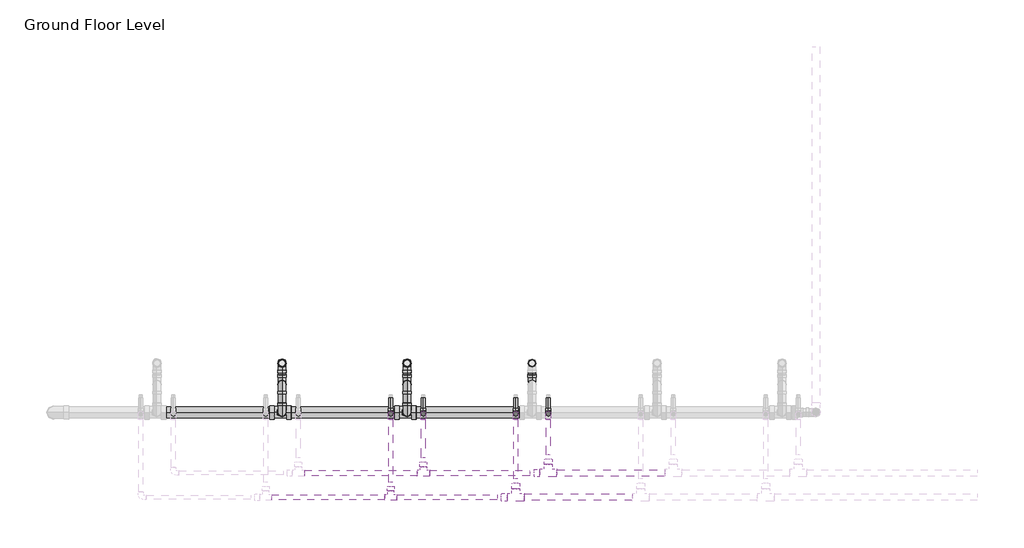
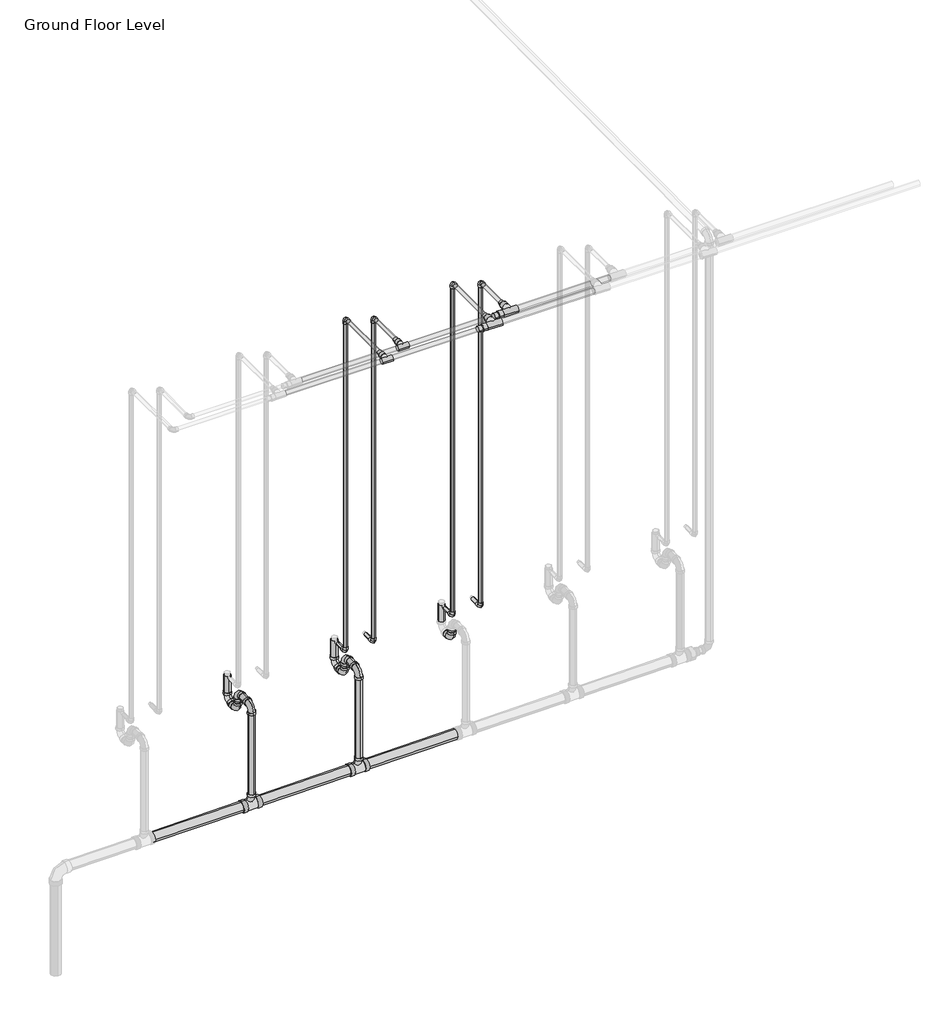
# One storey, part 40 of 74: 34 pipe segments, 29 pipe fittings.
"""IFC4 building model written with IfcOpenShell, lengths in millimetres."""

from ifc_helpers import new_model, si_unit, point, frame, frame_2d, origin, place, context, project, spatial, circle_curve, trimmed, segment, composite_curve, outline, extrude, transform, mapped, element, save
from components import m_bend_pvc_sch_40_dwv_standard_1e7bdcc1, m_bend_pvc_sch_40_dwv_standard_776e50c4, m_tee_reducing_sanitary_pvc_sch_40_dwv_standard_21d2848c, standard_b266ab3f, standard_72b35c3b, standard_08ff6011, standard_d0d0b892, standard_83629b21, standard_e954f56a

model = new_model("IFC4")

# Units and contexts
model_context = context("Model", 3, world=origin())
ifc_project = project(units=[si_unit("LENGTHUNIT", "METRE", prefix="MILLI")], contexts=[model_context])

# Site, building, storey
site = spatial("IfcSite", under=ifc_project)
building = spatial("IfcBuilding", under=site)
storey = spatial("IfcBuildingStorey", under=building, Name="Ground Floor Level", Elevation=900.0)

# Pipe fittings
placement = place(None, origin())
m_bend_pvc_sch_40_dwv_standard_shape = m_bend_pvc_sch_40_dwv_standard_1e7bdcc1(model_context)
element("IfcPipeFitting", 1, ObjectType="M_Bend - PVC - Sch 40 - DWV : Standard", at=placement, inside=storey, context=model_context, shape_type="MappedRepresentation", body=[
    mapped(m_bend_pvc_sch_40_dwv_standard_shape, transform((-19461.2502, 9458.7835646, 1360.0), x_axis=(0.0, 0.9999500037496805, 0.009999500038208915), y_axis=(0.0, -0.009999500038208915, 0.9999500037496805), z_axis=(1.0, 0.0, 0.0))),
])
element("IfcPipeFitting", 2, ObjectType="M_Bend - PVC - Sch 40 - DWV : Standard", at=placement, inside=storey, context=model_context, shape_type="MappedRepresentation", body=[
    mapped(m_bend_pvc_sch_40_dwv_standard_shape, transform((-20261.2502, 9458.7835646, 1360.0), x_axis=(0.0, 0.9999500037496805, 0.009999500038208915), y_axis=(0.0, -0.009999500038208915, 0.9999500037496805), z_axis=(1.0, 0.0, 0.0))),
])
element("IfcPipeFitting", 3, ObjectType="M_Bend - PVC - Sch 40 - DWV : Standard", at=placement, inside=storey, context=model_context, shape_type="MappedRepresentation", body=[
    mapped(m_bend_pvc_sch_40_dwv_standard_shape, transform((-19461.2502, 9143.7835646, 1498.2), x_axis=(0.0, -0.9999500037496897, -0.00999950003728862), y_axis=(0.0, 0.00999950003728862, -0.9999500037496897), z_axis=(1.0, 0.0, 0.0))),
])
element("IfcPipeFitting", 4, ObjectType="M_Bend - PVC - Sch 40 - DWV : Standard", at=placement, inside=storey, context=model_context, shape_type="MappedRepresentation", body=[
    mapped(m_bend_pvc_sch_40_dwv_standard_shape, transform((-20261.2502, 9143.7835646, 1498.2), x_axis=(0.0, -0.9999500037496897, -0.00999950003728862), y_axis=(0.0, 0.00999950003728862, -0.9999500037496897), z_axis=(1.0, 0.0, 0.0))),
])
m_bend_pvc_sch_40_dwv_standard_2_shape = m_bend_pvc_sch_40_dwv_standard_776e50c4(model_context)
element("IfcPipeFitting", 5, ObjectType="M_Bend - PVC - Sch 40 - DWV : Standard", at=placement, inside=storey, context=model_context, shape_type="MappedRepresentation", body=[
    mapped(m_bend_pvc_sch_40_dwv_standard_2_shape, transform((-18661.2502, 9323.7835646, 1358.65), x_axis=(0.0, -0.9999500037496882, -0.009999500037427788), y_axis=(0.0, -0.009999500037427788, 0.9999500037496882), z_axis=(-1.0, 0.0, 0.0))),
])
element("IfcPipeFitting", 6, ObjectType="M_Bend - PVC - Sch 40 - DWV : Standard", at=placement, inside=storey, context=model_context, shape_type="MappedRepresentation", body=[
    mapped(m_bend_pvc_sch_40_dwv_standard_2_shape, transform((-19461.2502, 9323.7835646, 1358.65), x_axis=(0.0, -0.9999500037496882, -0.009999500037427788), y_axis=(0.0, -0.009999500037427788, 0.9999500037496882), z_axis=(-1.0, 0.0, 0.0))),
])
element("IfcPipeFitting", 7, ObjectType="M_Bend - PVC - Sch 40 - DWV : Standard", at=placement, inside=storey, context=model_context, shape_type="MappedRepresentation", body=[
    mapped(m_bend_pvc_sch_40_dwv_standard_2_shape, transform((-19461.2502, 9323.7835646, 1500.0), x_axis=(0.0, 0.0, 1.0), y_axis=(0.0, -1.0, 0.0), z_axis=(1.0, 0.0, 0.0))),
])
element("IfcPipeFitting", 8, ObjectType="M_Bend - PVC - Sch 40 - DWV : Standard", at=placement, inside=storey, context=model_context, shape_type="MappedRepresentation", body=[
    mapped(m_bend_pvc_sch_40_dwv_standard_2_shape, transform((-20261.2502, 9323.7835646, 1358.65), x_axis=(0.0, -0.9999500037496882, -0.009999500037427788), y_axis=(0.0, -0.009999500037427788, 0.9999500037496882), z_axis=(-1.0, 0.0, 0.0))),
])
element("IfcPipeFitting", 9, ObjectType="M_Bend - PVC - Sch 40 - DWV : Standard", at=placement, inside=storey, context=model_context, shape_type="MappedRepresentation", body=[
    mapped(m_bend_pvc_sch_40_dwv_standard_2_shape, transform((-20261.2502, 9323.7835646, 1500.0), x_axis=(0.0, 0.0, 1.0), y_axis=(0.0, -1.0, 0.0), z_axis=(1.0, 0.0, 0.0))),
])
m_tee_reducing_sanitary_pvc_sch_40_dwv_standard_shape = m_tee_reducing_sanitary_pvc_sch_40_dwv_standard_21d2848c(model_context)
element("IfcPipeFitting", 10, ObjectType="M_Tee Reducing Sanitary - PVC - Sch 40 - DWV : Standard", at=placement, inside=storey, context=model_context, shape_type="MappedRepresentation", body=[
    mapped(m_tee_reducing_sanitary_pvc_sch_40_dwv_standard_shape, transform((-19461.2502, 9143.7835646, 735.2441999), x_axis=(0.9999500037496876, 0.0, 0.009999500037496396), y_axis=(0.009999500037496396, 0.0, -0.9999500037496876), z_axis=(0.0, 1.0, 0.0))),
])
element("IfcPipeFitting", 11, ObjectType="M_Tee Reducing Sanitary - PVC - Sch 40 - DWV : Standard", at=placement, inside=storey, context=model_context, shape_type="MappedRepresentation", body=[
    mapped(m_tee_reducing_sanitary_pvc_sch_40_dwv_standard_shape, transform((-20261.2502, 9143.7835646, 727.2441999), x_axis=(0.9999500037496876, 0.0, 0.009999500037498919), y_axis=(0.009999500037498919, 0.0, -0.9999500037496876), z_axis=(0.0, 1.0, 0.0))),
])
standard_shape = standard_b266ab3f(model_context)
element("IfcPipeFitting", 12, ObjectType="M_Elbow - CPVC - Sch 40 : Standard", at=placement, inside=storey, context=model_context, shape_type="MappedRepresentation", body=[
    mapped(standard_shape, transform((-19356.9352794, 9135.2153534, 4250.0), x_axis=(0.0, 0.0, 1.0), y_axis=(0.0, -1.0, 0.0), z_axis=(1.0, 0.0, 0.0))),
])
element("IfcPipeFitting", 13, ObjectType="M_Elbow - CPVC - Sch 40 : Standard", at=placement, inside=storey, context=model_context, shape_type="MappedRepresentation", body=[
    mapped(standard_shape, transform((-18556.7923674, 9135.2153534, 4250.0), x_axis=(0.0, 0.0, 1.0), y_axis=(0.0, -1.0, 0.0), z_axis=(1.0, 0.0, 0.0))),
])
element("IfcPipeFitting", 14, ObjectType="M_Elbow - CPVC - Sch 40 : Standard", at=placement, inside=storey, context=model_context, shape_type="MappedRepresentation", body=[
    mapped(standard_shape, transform((-19565.5651206, 9135.2153534, 1690.0), x_axis=(0.0, 0.0, -1.0), y_axis=(0.0, 1.0, 0.0), z_axis=(1.0, 0.0, 0.0))),
])
element("IfcPipeFitting", 15, ObjectType="M_Elbow - CPVC - Sch 40 : Standard", at=placement, inside=storey, context=model_context, shape_type="MappedRepresentation", body=[
    mapped(standard_shape, transform((-19356.9352794, 9135.2153534, 1690.0), x_axis=(0.0, 0.0, -1.0), y_axis=(0.0, 1.0, 0.0), z_axis=(1.0, 0.0, 0.0))),
])
element("IfcPipeFitting", 16, ObjectType="M_Elbow - CPVC - Sch 40 : Standard", at=placement, inside=storey, context=model_context, shape_type="MappedRepresentation", body=[
    mapped(standard_shape, transform((-18765.4222086, 9135.2153534, 1690.0), x_axis=(0.0, 0.0, -1.0), y_axis=(-0.0014291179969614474, 0.999998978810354, 0.0), z_axis=(0.999998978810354, 0.0014291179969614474, 0.0))),
])
element("IfcPipeFitting", 17, ObjectType="M_Elbow - CPVC - Sch 40 : Standard", at=placement, inside=storey, context=model_context, shape_type="MappedRepresentation", body=[
    mapped(standard_shape, transform((-18556.7923674, 9135.2153534, 1690.0), x_axis=(0.0, 0.0, -1.0), y_axis=(-0.0014291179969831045, 0.9999989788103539, 0.0), z_axis=(0.9999989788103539, 0.0014291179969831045, 0.0))),
])
element("IfcPipeFitting", 18, ObjectType="M_Elbow - CPVC - Sch 40 : Standard", at=placement, inside=storey, context=model_context, shape_type="MappedRepresentation", body=[
    mapped(standard_shape, transform((-18765.4222086, 9135.2153534, 4315.0), x_axis=(0.0, 0.0, 1.0), y_axis=(0.0, -1.0, 0.0), z_axis=(1.0, 0.0, 0.0))),
])
element("IfcPipeFitting", 19, ObjectType="M_Elbow - CPVC - Sch 40 : Standard", at=placement, inside=storey, context=model_context, shape_type="MappedRepresentation", body=[
    mapped(standard_shape, transform((-19565.5651206, 9135.2153534, 4315.0), x_axis=(0.0, 0.0, 1.0), y_axis=(0.0, -1.0, 0.0), z_axis=(1.0, 0.0, 0.0))),
])
standard_2_shape = standard_72b35c3b(model_context)
element("IfcPipeFitting", 20, ObjectType="M_Tee - CPVC - Sch 40 : Standard", at=placement, inside=storey, context=model_context, shape_type="MappedRepresentation", body=[
    mapped(standard_2_shape, transform((-19565.5651206, 8599.9071734, 4315.0), x_axis=(1.0, 0.0, 0.0), y_axis=(0.0, -1.0, 0.0), z_axis=(0.0, 0.0, -1.0))),
])
element("IfcPipeFitting", 21, ObjectType="M_Tee - CPVC - Sch 40 : Standard", at=placement, inside=storey, context=model_context, shape_type="MappedRepresentation", body=[
    mapped(standard_2_shape, transform((-19356.9352794, 8755.2153534, 4250.0), x_axis=(-1.0, 0.0, 0.0), y_axis=(0.0, -1.0, 0.0), z_axis=(0.0, 0.0, 1.0))),
])
standard_3_shape = standard_08ff6011(model_context)
element("IfcPipeFitting", 22, ObjectType="M_Tee - CPVC - Sch 40 : Standard", at=placement, inside=storey, context=model_context, shape_type="MappedRepresentation", body=[
    mapped(standard_3_shape, transform((-18765.4222086, 8599.9071734, 4315.0), x_axis=(1.0, 0.0, 0.0), y_axis=(0.0, -1.0, 0.0), z_axis=(0.0, 0.0, -1.0))),
])
element("IfcPipeFitting", 23, ObjectType="M_Tee - CPVC - Sch 40 : Standard", at=placement, inside=storey, context=model_context, shape_type="MappedRepresentation", body=[
    mapped(standard_3_shape, transform((-18556.7923674, 8755.2153534, 4250.0), x_axis=(-1.0, 0.0, 0.0), y_axis=(0.0, -1.0, 0.0), z_axis=(0.0, 0.0, 1.0))),
])
standard_4_shape = standard_d0d0b892(model_context)
element("IfcPipeFitting", 24, ObjectType="M_Coupling Reducing - CPVC - Sch 40 : Standard", at=placement, inside=storey, context=model_context, shape_type="MappedRepresentation", body=[
    mapped(standard_4_shape, transform((-18819.3972086, 8599.9071734, 4315.0), x_axis=(-1.0, 0.0, 0.0), y_axis=(0.0, -1.0, 0.0), z_axis=(0.0, 0.0, 1.0))),
])
element("IfcPipeFitting", 25, ObjectType="M_Coupling Reducing - CPVC - Sch 40 : Standard", at=placement, inside=storey, context=model_context, shape_type="MappedRepresentation", body=[
    mapped(standard_4_shape, transform((-18610.7673674, 8755.2153534, 4250.0), x_axis=(-1.0, 0.0, 0.0), y_axis=(0.0, -1.0, 0.0), z_axis=(0.0, 0.0, 1.0))),
])
standard_5_shape = standard_83629b21(model_context)
element("IfcPipeFitting", 26, ObjectType="M_Coupling Reducing - CPVC - Sch 40 : Standard", at=placement, inside=storey, context=model_context, shape_type="MappedRepresentation", body=[
    mapped(standard_5_shape, transform((-18765.4222086, 8653.8821734, 4315.0), x_axis=(0.0, 1.0, 0.0), y_axis=(-1.0, 0.0, 0.0), z_axis=(0.0, 0.0, 1.0))),
])
element("IfcPipeFitting", 27, ObjectType="M_Coupling Reducing - CPVC - Sch 40 : Standard", at=placement, inside=storey, context=model_context, shape_type="MappedRepresentation", body=[
    mapped(standard_5_shape, transform((-18556.7923674, 8809.1903534, 4250.0), x_axis=(0.0, 1.0, 0.0), y_axis=(-1.0, 0.0, 0.0), z_axis=(0.0, 0.0, 1.0))),
])
standard_6_shape = standard_e954f56a(model_context)
element("IfcPipeFitting", 28, ObjectType="M_Coupling Reducing - CPVC - Sch 40 : Standard", at=placement, inside=storey, context=model_context, shape_type="MappedRepresentation", body=[
    mapped(standard_6_shape, transform((-19565.5651206, 8639.6073734, 4315.0), x_axis=(0.0, 1.0, 0.0), y_axis=(-1.0, 0.0, 0.0), z_axis=(0.0, 0.0, 1.0))),
])
element("IfcPipeFitting", 29, ObjectType="M_Coupling Reducing - CPVC - Sch 40 : Standard", at=placement, inside=storey, context=model_context, shape_type="MappedRepresentation", body=[
    mapped(standard_6_shape, transform((-19356.9352794, 8794.9155534, 4250.0), x_axis=(0.0, 1.0, 0.0), y_axis=(-1.0, 0.0, 0.0), z_axis=(0.0, 0.0, 1.0))),
])

# Pipe segments
element("IfcPipeSegment", 30, ObjectType="CPVC", at=placement, inside=storey, context=model_context, shape_type="SweptSolid", body=[
    extrude(outline(composite_curve([segment(trimmed(circle_curve(frame_2d((0.0, 13.335)), 13.335), [point((0.0, 26.67))], [point((13.335, 13.335))], False, "CARTESIAN"), True, "CONTINUOUS"), segment(trimmed(circle_curve(frame_2d((0.0, 13.335)), 13.335), [point((13.335, 13.335))], [point((0.0, 0.0))], False, "CARTESIAN"), True, "CONTINUOUS"), segment(trimmed(circle_curve(frame_2d((0.0, 13.335)), 13.335), [point((0.0, 0.0))], [point((-13.335, 13.335))], False, "CARTESIAN"), True, "CONTINUOUS"), segment(trimmed(circle_curve(frame_2d((0.0, 13.335)), 13.335), [point((-13.335, 13.335))], [point((0.0, 26.67))], False, "CARTESIAN"), True, "CONTINUOUS")], self_intersect=False)), frame((-19578.9001206, 9170.5404034, 1690.0), z_axis=(-1.3601818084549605e-11, 1.0, 0.0), x_axis=(0.0, 0.0, 1.0)), (0.0, 0.0, 1.0), 64.67495),
])
element("IfcPipeSegment", 31, ObjectType="CPVC", at=placement, inside=storey, context=model_context, shape_type="SweptSolid", body=[
    extrude(outline(composite_curve([segment(trimmed(circle_curve(frame_2d((4315.0, -19565.5651206)), 13.335), [point((4315.0, -19578.9001206))], [point((4301.665, -19565.5651206))], False, "CARTESIAN"), True, "CONTINUOUS"), segment(trimmed(circle_curve(frame_2d((4315.0, -19565.5651206)), 13.335), [point((4301.665, -19565.5651206))], [point((4315.0, -19552.2301206))], False, "CARTESIAN"), True, "CONTINUOUS"), segment(trimmed(circle_curve(frame_2d((4315.0, -19565.5651206)), 13.335), [point((4315.0, -19552.2301206))], [point((4328.335, -19565.5651206))], False, "CARTESIAN"), True, "CONTINUOUS"), segment(trimmed(circle_curve(frame_2d((4315.0, -19565.5651206)), 13.335), [point((4328.335, -19565.5651206))], [point((4315.0, -19578.9001206))], False, "CARTESIAN"), True, "CONTINUOUS")], self_intersect=False)), frame((0.0, 8696.7573734, 0.0), z_axis=(0.0, 1.0, 0.0), x_axis=(0.0, 0.0, 1.0)), (0.0, 0.0, 1.0), 403.13293),
])
element("IfcPipeSegment", 32, ObjectType="CPVC", at=placement, inside=storey, context=model_context, shape_type="SweptSolid", body=[
    extrude(outline(composite_curve([segment(trimmed(circle_curve(frame_2d((-19565.5651206, 9135.2153534)), 13.335), [point((-19578.9001206, 9135.2153534))], [point((-19565.5651206, 9148.5503534))], False, "CARTESIAN"), True, "CONTINUOUS"), segment(trimmed(circle_curve(frame_2d((-19565.5651206, 9135.2153534)), 13.335), [point((-19565.5651206, 9148.5503534))], [point((-19552.2301206, 9135.2153534))], False, "CARTESIAN"), True, "CONTINUOUS"), segment(trimmed(circle_curve(frame_2d((-19565.5651206, 9135.2153534)), 13.335), [point((-19552.2301206, 9135.2153534))], [point((-19565.5651206, 9121.8803534))], False, "CARTESIAN"), True, "CONTINUOUS"), segment(trimmed(circle_curve(frame_2d((-19565.5651206, 9135.2153534)), 13.335), [point((-19565.5651206, 9121.8803534))], [point((-19578.9001206, 9135.2153534))], False, "CARTESIAN"), True, "CONTINUOUS")], self_intersect=False)), frame((0.0, 0.0, 1725.32505), z_axis=(0.0, 0.0, 1.0), x_axis=(1.0, 0.0, 0.0)), (0.0, 0.0, 1.0), 2554.3499),
])
element("IfcPipeSegment", 33, ObjectType="CPVC", at=placement, inside=storey, context=model_context, shape_type="SweptSolid", body=[
    extrude(outline(composite_curve([segment(trimmed(circle_curve(frame_2d((0.0, 13.335)), 13.335), [point((0.0, 26.67))], [point((13.335, 13.335))], False, "CARTESIAN"), True, "CONTINUOUS"), segment(trimmed(circle_curve(frame_2d((0.0, 13.335)), 13.335), [point((13.335, 13.335))], [point((0.0, 0.0))], False, "CARTESIAN"), True, "CONTINUOUS"), segment(trimmed(circle_curve(frame_2d((0.0, 13.335)), 13.335), [point((0.0, 0.0))], [point((-13.335, 13.335))], False, "CARTESIAN"), True, "CONTINUOUS"), segment(trimmed(circle_curve(frame_2d((0.0, 13.335)), 13.335), [point((-13.335, 13.335))], [point((0.0, 26.67))], False, "CARTESIAN"), True, "CONTINUOUS")], self_intersect=False)), frame((-19370.2702794, 9170.5404034, 1690.0), z_axis=(-1.3642420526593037e-11, 1.0, 0.0), x_axis=(0.0, 0.0, 1.0)), (0.0, 0.0, 1.0), 64.67495),
])
element("IfcPipeSegment", 34, ObjectType="CPVC", at=placement, inside=storey, context=model_context, shape_type="SweptSolid", body=[
    extrude(outline(composite_curve([segment(trimmed(circle_curve(frame_2d((4250.0, -19356.9352794)), 13.335), [point((4250.0, -19370.2702794))], [point((4236.665, -19356.9352794))], False, "CARTESIAN"), True, "CONTINUOUS"), segment(trimmed(circle_curve(frame_2d((4250.0, -19356.9352794)), 13.335), [point((4236.665, -19356.9352794))], [point((4250.0, -19343.6002794))], False, "CARTESIAN"), True, "CONTINUOUS"), segment(trimmed(circle_curve(frame_2d((4250.0, -19356.9352794)), 13.335), [point((4250.0, -19343.6002794))], [point((4263.335, -19356.9352794))], False, "CARTESIAN"), True, "CONTINUOUS"), segment(trimmed(circle_curve(frame_2d((4250.0, -19356.9352794)), 13.335), [point((4263.335, -19356.9352794))], [point((4250.0, -19370.2702794))], False, "CARTESIAN"), True, "CONTINUOUS")], self_intersect=False)), frame((0.0, 8852.0655534, 0.0), z_axis=(0.0, 1.0, 0.0), x_axis=(0.0, 0.0, 1.0)), (0.0, 0.0, 1.0), 247.82475),
])
element("IfcPipeSegment", 35, ObjectType="CPVC", at=placement, inside=storey, context=model_context, shape_type="SweptSolid", body=[
    extrude(outline(composite_curve([segment(trimmed(circle_curve(frame_2d((-19356.9352794, 9135.2153534)), 13.335), [point((-19370.2702794, 9135.2153534))], [point((-19356.9352794, 9148.5503534))], False, "CARTESIAN"), True, "CONTINUOUS"), segment(trimmed(circle_curve(frame_2d((-19356.9352794, 9135.2153534)), 13.335), [point((-19356.9352794, 9148.5503534))], [point((-19343.6002794, 9135.2153534))], False, "CARTESIAN"), True, "CONTINUOUS"), segment(trimmed(circle_curve(frame_2d((-19356.9352794, 9135.2153534)), 13.335), [point((-19343.6002794, 9135.2153534))], [point((-19356.9352794, 9121.8803534))], False, "CARTESIAN"), True, "CONTINUOUS"), segment(trimmed(circle_curve(frame_2d((-19356.9352794, 9135.2153534)), 13.335), [point((-19356.9352794, 9121.8803534))], [point((-19370.2702794, 9135.2153534))], False, "CARTESIAN"), True, "CONTINUOUS")], self_intersect=False)), frame((0.0, 0.0, 1725.32505), z_axis=(0.0, 0.0, 1.0), x_axis=(1.0, 0.0, 0.0)), (0.0, 0.0, 1.0), 2489.3499),
])
element("IfcPipeSegment", 36, ObjectType="CPVC", at=placement, inside=storey, context=model_context, shape_type="SweptSolid", body=[
    extrude(outline(composite_curve([segment(trimmed(circle_curve(frame_2d((0.0, 13.335)), 13.335), [point((0.0, 26.67))], [point((13.335, 13.335))], False, "CARTESIAN"), True, "CONTINUOUS"), segment(trimmed(circle_curve(frame_2d((0.0, 13.335)), 13.335), [point((13.335, 13.335))], [point((0.0, 0.0))], False, "CARTESIAN"), True, "CONTINUOUS"), segment(trimmed(circle_curve(frame_2d((0.0, 13.335)), 13.335), [point((0.0, 0.0))], [point((-13.335, 13.335))], False, "CARTESIAN"), True, "CONTINUOUS"), segment(trimmed(circle_curve(frame_2d((0.0, 13.335)), 13.335), [point((-13.335, 13.335))], [point((0.0, 26.67))], False, "CARTESIAN"), True, "CONTINUOUS")], self_intersect=False)), frame((-18778.8076787, 9170.52131, 1690.0), z_axis=(-0.0014291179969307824, 0.999998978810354, 0.0), x_axis=(0.0, 0.0, 1.0)), (0.0, 0.0, 1.0), 64.6750521),
])
element("IfcPipeSegment", 37, ObjectType="CPVC", at=placement, inside=storey, context=model_context, shape_type="SweptSolid", body=[
    extrude(outline(composite_curve([segment(trimmed(circle_curve(frame_2d((4315.0, -18765.4222086)), 13.335), [point((4315.0, -18778.7572086))], [point((4301.665, -18765.4222086))], False, "CARTESIAN"), True, "CONTINUOUS"), segment(trimmed(circle_curve(frame_2d((4315.0, -18765.4222086)), 13.335), [point((4301.665, -18765.4222086))], [point((4315.0, -18752.0872086))], False, "CARTESIAN"), True, "CONTINUOUS"), segment(trimmed(circle_curve(frame_2d((4315.0, -18765.4222086)), 13.335), [point((4315.0, -18752.0872086))], [point((4328.335, -18765.4222086))], False, "CARTESIAN"), True, "CONTINUOUS"), segment(trimmed(circle_curve(frame_2d((4315.0, -18765.4222086)), 13.335), [point((4328.335, -18765.4222086))], [point((4315.0, -18778.7572086))], False, "CARTESIAN"), True, "CONTINUOUS")], self_intersect=False)), frame((0.0, 8716.6990484, 0.0), z_axis=(0.0, 1.0, 0.0), x_axis=(0.0, 0.0, 1.0)), (0.0, 0.0, 1.0), 383.191255),
])
element("IfcPipeSegment", 38, ObjectType="CPVC", at=placement, inside=storey, context=model_context, shape_type="SweptSolid", body=[
    extrude(outline(composite_curve([segment(trimmed(circle_curve(frame_2d((-18765.4222086, 9135.2153534)), 13.335), [point((-18778.7572086, 9135.2153534))], [point((-18765.4222086, 9148.5503534))], False, "CARTESIAN"), True, "CONTINUOUS"), segment(trimmed(circle_curve(frame_2d((-18765.4222086, 9135.2153534)), 13.335), [point((-18765.4222086, 9148.5503534))], [point((-18752.0872086, 9135.2153534))], False, "CARTESIAN"), True, "CONTINUOUS"), segment(trimmed(circle_curve(frame_2d((-18765.4222086, 9135.2153534)), 13.335), [point((-18752.0872086, 9135.2153534))], [point((-18765.4222086, 9121.8803534))], False, "CARTESIAN"), True, "CONTINUOUS"), segment(trimmed(circle_curve(frame_2d((-18765.4222086, 9135.2153534)), 13.335), [point((-18765.4222086, 9121.8803534))], [point((-18778.7572086, 9135.2153534))], False, "CARTESIAN"), True, "CONTINUOUS")], self_intersect=False)), frame((0.0, 0.0, 1725.32505), z_axis=(0.0, 0.0, 1.0), x_axis=(1.0, 0.0, 0.0)), (0.0, 0.0, 1.0), 2554.3499),
])
element("IfcPipeSegment", 39, ObjectType="CPVC", at=placement, inside=storey, context=model_context, shape_type="SweptSolid", body=[
    extrude(outline(composite_curve([segment(trimmed(circle_curve(frame_2d((0.0, 13.335)), 13.335), [point((0.0, 26.67))], [point((13.335, 13.335))], False, "CARTESIAN"), True, "CONTINUOUS"), segment(trimmed(circle_curve(frame_2d((0.0, 13.335)), 13.335), [point((13.335, 13.335))], [point((0.0, 0.0))], False, "CARTESIAN"), True, "CONTINUOUS"), segment(trimmed(circle_curve(frame_2d((0.0, 13.335)), 13.335), [point((0.0, 0.0))], [point((-13.335, 13.335))], False, "CARTESIAN"), True, "CONTINUOUS"), segment(trimmed(circle_curve(frame_2d((0.0, 13.335)), 13.335), [point((-13.335, 13.335))], [point((0.0, 26.67))], False, "CARTESIAN"), True, "CONTINUOUS")], self_intersect=False)), frame((-18570.1778375, 9170.52131, 1690.0), z_axis=(-0.0014291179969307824, 0.999998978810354, 0.0), x_axis=(0.0, 0.0, 1.0)), (0.0, 0.0, 1.0), 64.6750521),
])
element("IfcPipeSegment", 40, ObjectType="CPVC", at=placement, inside=storey, context=model_context, shape_type="SweptSolid", body=[
    extrude(outline(composite_curve([segment(trimmed(circle_curve(frame_2d((4250.0, -18556.7923674)), 13.335), [point((4250.0, -18570.1273674))], [point((4236.665, -18556.7923674))], False, "CARTESIAN"), True, "CONTINUOUS"), segment(trimmed(circle_curve(frame_2d((4250.0, -18556.7923674)), 13.335), [point((4236.665, -18556.7923674))], [point((4250.0, -18543.4573674))], False, "CARTESIAN"), True, "CONTINUOUS"), segment(trimmed(circle_curve(frame_2d((4250.0, -18556.7923674)), 13.335), [point((4250.0, -18543.4573674))], [point((4263.335, -18556.7923674))], False, "CARTESIAN"), True, "CONTINUOUS"), segment(trimmed(circle_curve(frame_2d((4250.0, -18556.7923674)), 13.335), [point((4263.335, -18556.7923674))], [point((4250.0, -18570.1273674))], False, "CARTESIAN"), True, "CONTINUOUS")], self_intersect=False)), frame((0.0, 8872.0072284, 0.0), z_axis=(0.0, 1.0, 0.0), x_axis=(0.0, 0.0, 1.0)), (0.0, 0.0, 1.0), 227.883075),
])
element("IfcPipeSegment", 41, ObjectType="CPVC", at=placement, inside=storey, context=model_context, shape_type="SweptSolid", body=[
    extrude(outline(composite_curve([segment(trimmed(circle_curve(frame_2d((-18556.7923674, 9135.2153534)), 13.335), [point((-18570.1273674, 9135.2153534))], [point((-18556.7923674, 9148.5503534))], False, "CARTESIAN"), True, "CONTINUOUS"), segment(trimmed(circle_curve(frame_2d((-18556.7923674, 9135.2153534)), 13.335), [point((-18556.7923674, 9148.5503534))], [point((-18543.4573674, 9135.2153534))], False, "CARTESIAN"), True, "CONTINUOUS"), segment(trimmed(circle_curve(frame_2d((-18556.7923674, 9135.2153534)), 13.335), [point((-18543.4573674, 9135.2153534))], [point((-18556.7923674, 9121.8803534))], False, "CARTESIAN"), True, "CONTINUOUS"), segment(trimmed(circle_curve(frame_2d((-18556.7923674, 9135.2153534)), 13.335), [point((-18556.7923674, 9121.8803534))], [point((-18570.1273674, 9135.2153534))], False, "CARTESIAN"), True, "CONTINUOUS")], self_intersect=False)), frame((0.0, 0.0, 1725.32505), z_axis=(0.0, 0.0, 1.0), x_axis=(1.0, 0.0, 0.0)), (0.0, 0.0, 1.0), 2489.3499),
])
element("IfcPipeSegment", 42, ObjectType="CPVC", at=placement, inside=storey, context=model_context, shape_type="SweptSolid", body=[
    extrude(outline(composite_curve([segment(trimmed(circle_curve(frame_2d((8599.9071734, 4315.0)), 21.082), [point((8620.9891734, 4315.0))], [point((8599.9071734, 4293.918))], False, "CARTESIAN"), True, "CONTINUOUS"), segment(trimmed(circle_curve(frame_2d((8599.9071734, 4315.0)), 21.082), [point((8599.9071734, 4293.918))], [point((8578.8251734, 4315.0))], False, "CARTESIAN"), True, "CONTINUOUS"), segment(trimmed(circle_curve(frame_2d((8599.9071734, 4315.0)), 21.082), [point((8578.8251734, 4315.0))], [point((8599.9071734, 4336.082))], False, "CARTESIAN"), True, "CONTINUOUS"), segment(trimmed(circle_curve(frame_2d((8599.9071734, 4315.0)), 21.082), [point((8599.9071734, 4336.082))], [point((8620.9891734, 4315.0))], False, "CARTESIAN"), True, "CONTINUOUS")], self_intersect=False)), frame((-18711.4472086, 0.0, 0.0), z_axis=(1.0, 0.0, 0.0), x_axis=(0.0, 1.0, 0.0)), (0.0, 0.0, 1.0), 692.05),
])
element("IfcPipeSegment", 43, ObjectType="CPVC", at=placement, inside=storey, context=model_context, shape_type="SweptSolid", body=[
    extrude(outline(composite_curve([segment(trimmed(circle_curve(frame_2d((8599.9071734, 4315.0)), 16.7005), [point((8616.6076734, 4315.0))], [point((8599.9071734, 4298.2995))], False, "CARTESIAN"), True, "CONTINUOUS"), segment(trimmed(circle_curve(frame_2d((8599.9071734, 4315.0)), 16.7005), [point((8599.9071734, 4298.2995))], [point((8583.2066734, 4315.0))], False, "CARTESIAN"), True, "CONTINUOUS"), segment(trimmed(circle_curve(frame_2d((8599.9071734, 4315.0)), 16.7005), [point((8583.2066734, 4315.0))], [point((8599.9071734, 4331.7005))], False, "CARTESIAN"), True, "CONTINUOUS"), segment(trimmed(circle_curve(frame_2d((8599.9071734, 4315.0)), 16.7005), [point((8599.9071734, 4331.7005))], [point((8616.6076734, 4315.0))], False, "CARTESIAN"), True, "CONTINUOUS")], self_intersect=False)), frame((-19525.8649206, 0.0, 0.0), z_axis=(1.0, 0.0, 0.0), x_axis=(0.0, 1.0, 0.0)), (0.0, 0.0, 1.0), 640.3488369),
])
element("IfcPipeSegment", 44, ObjectType="CPVC", at=placement, inside=storey, context=model_context, shape_type="SweptSolid", body=[
    extrude(outline(composite_curve([segment(trimmed(circle_curve(frame_2d((8599.9071734, 4315.0)), 16.7005), [point((8616.6076734, 4315.0))], [point((8599.9071734, 4298.2995))], False, "CARTESIAN"), True, "CONTINUOUS"), segment(trimmed(circle_curve(frame_2d((8599.9071734, 4315.0)), 16.7005), [point((8599.9071734, 4298.2995))], [point((8583.2066734, 4315.0))], False, "CARTESIAN"), True, "CONTINUOUS"), segment(trimmed(circle_curve(frame_2d((8599.9071734, 4315.0)), 16.7005), [point((8583.2066734, 4315.0))], [point((8599.9071734, 4331.7005))], False, "CARTESIAN"), True, "CONTINUOUS"), segment(trimmed(circle_curve(frame_2d((8599.9071734, 4315.0)), 16.7005), [point((8599.9071734, 4331.7005))], [point((8616.6076734, 4315.0))], False, "CARTESIAN"), True, "CONTINUOUS")], self_intersect=False)), frame((-20325.8649206, 0.0, 0.0), z_axis=(1.0, 0.0, 0.0), x_axis=(0.0, 1.0, 0.0)), (0.0, 0.0, 1.0), 720.5996),
])
element("IfcPipeSegment", 45, ObjectType="CPVC", at=placement, inside=storey, context=model_context, shape_type="SweptSolid", body=[
    extrude(outline(composite_curve([segment(trimmed(circle_curve(frame_2d((8755.2153534, 4250.0)), 16.7005), [point((8738.5148534, 4250.0))], [point((8755.2153534, 4266.7005))], False, "CARTESIAN"), True, "CONTINUOUS"), segment(trimmed(circle_curve(frame_2d((8755.2153534, 4250.0)), 16.7005), [point((8755.2153534, 4266.7005))], [point((8771.9158534, 4250.0))], False, "CARTESIAN"), True, "CONTINUOUS"), segment(trimmed(circle_curve(frame_2d((8755.2153534, 4250.0)), 16.7005), [point((8771.9158534, 4250.0))], [point((8755.2153534, 4233.2995))], False, "CARTESIAN"), True, "CONTINUOUS"), segment(trimmed(circle_curve(frame_2d((8755.2153534, 4250.0)), 16.7005), [point((8755.2153534, 4233.2995))], [point((8738.5148534, 4250.0))], False, "CARTESIAN"), True, "CONTINUOUS")], self_intersect=False)), frame((-20117.2350794, 0.0, 0.0), z_axis=(1.0, 0.0, 0.0), x_axis=(0.0, 1.0, 0.0)), (0.0, 0.0, 1.0), 720.5996),
])
element("IfcPipeSegment", 46, ObjectType="CPVC", at=placement, inside=storey, context=model_context, shape_type="SweptSolid", body=[
    extrude(outline(composite_curve([segment(trimmed(circle_curve(frame_2d((8755.2153534, 4250.0)), 16.7005), [point((8738.5148534, 4250.0))], [point((8755.2153534, 4266.7005))], False, "CARTESIAN"), True, "CONTINUOUS"), segment(trimmed(circle_curve(frame_2d((8755.2153534, 4250.0)), 16.7005), [point((8755.2153534, 4266.7005))], [point((8771.9158534, 4250.0))], False, "CARTESIAN"), True, "CONTINUOUS"), segment(trimmed(circle_curve(frame_2d((8755.2153534, 4250.0)), 16.7005), [point((8771.9158534, 4250.0))], [point((8755.2153534, 4233.2995))], False, "CARTESIAN"), True, "CONTINUOUS"), segment(trimmed(circle_curve(frame_2d((8755.2153534, 4250.0)), 16.7005), [point((8755.2153534, 4233.2995))], [point((8738.5148534, 4250.0))], False, "CARTESIAN"), True, "CONTINUOUS")], self_intersect=False)), frame((-19317.2350794, 0.0, 0.0), z_axis=(1.0, 0.0, 0.0), x_axis=(0.0, 1.0, 0.0)), (0.0, 0.0, 1.0), 640.3488369),
])
element("IfcPipeSegment", 47, ObjectType="CPVC", at=placement, inside=storey, context=model_context, shape_type="SweptSolid", body=[
    extrude(outline(composite_curve([segment(trimmed(circle_curve(frame_2d((8755.2153534, 4250.0)), 21.082), [point((8734.1333534, 4250.0))], [point((8755.2153534, 4271.082))], False, "CARTESIAN"), True, "CONTINUOUS"), segment(trimmed(circle_curve(frame_2d((8755.2153534, 4250.0)), 21.082), [point((8755.2153534, 4271.082))], [point((8776.2973534, 4250.0))], False, "CARTESIAN"), True, "CONTINUOUS"), segment(trimmed(circle_curve(frame_2d((8755.2153534, 4250.0)), 21.082), [point((8776.2973534, 4250.0))], [point((8755.2153534, 4228.918))], False, "CARTESIAN"), True, "CONTINUOUS"), segment(trimmed(circle_curve(frame_2d((8755.2153534, 4250.0)), 21.082), [point((8755.2153534, 4228.918))], [point((8734.1333534, 4250.0))], False, "CARTESIAN"), True, "CONTINUOUS")], self_intersect=False)), frame((-18502.8173674, 0.0, 0.0), z_axis=(1.0, 0.0, 0.0), x_axis=(0.0, 1.0, 0.0)), (0.0, 0.0, 1.0), 692.05),
])
element("IfcPipeSegment", 48, ObjectType="PVC - DWV", at=placement, inside=storey, context=model_context, shape_type="SweptSolid", body=[
    extrude(outline(composite_curve([segment(trimmed(circle_curve(frame_2d((-18661.2502, 9458.7835646)), 24.13), [point((-18685.3802, 9458.7835646))], [point((-18661.2502, 9482.9135646))], False, "CARTESIAN"), True, "CONTINUOUS"), segment(trimmed(circle_curve(frame_2d((-18661.2502, 9458.7835646)), 24.13), [point((-18661.2502, 9482.9135646))], [point((-18637.1202, 9458.7835646))], False, "CARTESIAN"), True, "CONTINUOUS"), segment(trimmed(circle_curve(frame_2d((-18661.2502, 9458.7835646)), 24.13), [point((-18637.1202, 9458.7835646))], [point((-18661.2502, 9434.6535646))], False, "CARTESIAN"), True, "CONTINUOUS"), segment(trimmed(circle_curve(frame_2d((-18661.2502, 9458.7835646)), 24.13), [point((-18661.2502, 9434.6535646))], [point((-18685.3802, 9458.7835646))], False, "CARTESIAN"), True, "CONTINUOUS")], self_intersect=False)), frame((0.0, 0.0, 1421.8998), z_axis=(0.0, 0.0, 1.0), x_axis=(1.0, 0.0, 0.0)), (0.0, 0.0, 1.0), 128.1002),
])
element("IfcPipeSegment", 49, ObjectType="PVC - DWV", at=placement, inside=storey, context=model_context, shape_type="SweptSolid", body=[
    extrude(outline(composite_curve([segment(trimmed(circle_curve(frame_2d((0.0, -24.13)), 24.13), [point((-24.13, -24.13))], [point((0.0, 0.0))], False, "CARTESIAN"), True, "CONTINUOUS"), segment(trimmed(circle_curve(frame_2d((0.0, -24.13)), 24.13), [point((0.0, 0.0))], [point((24.13, -24.13))], False, "CARTESIAN"), True, "CONTINUOUS"), segment(trimmed(circle_curve(frame_2d((0.0, -24.13)), 24.13), [point((24.13, -24.13))], [point((0.0, -48.2599999))], False, "CARTESIAN"), True, "CONTINUOUS"), segment(trimmed(circle_curve(frame_2d((0.0, -24.13)), 24.13), [point((0.0, -48.2599999))], [point((-24.13, -24.13))], False, "CARTESIAN"), True, "CONTINUOUS")], self_intersect=False)), frame((-18661.2502, 9385.9215577, 1335.1401735), z_axis=(0.0, 0.9999500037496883, 0.009999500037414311), x_axis=(1.0, 0.0, 0.0)), (0.0, 0.0, 1.0), 11.2071498),
])
element("IfcPipeSegment", 50, ObjectType="PVC - DWV", at=placement, inside=storey, context=model_context, shape_type="SweptSolid", body=[
    extrude(outline(composite_curve([segment(trimmed(circle_curve(frame_2d((-18661.2502, 9323.7835646)), 24.13), [point((-18685.3802, 9323.7835646))], [point((-18661.2502, 9347.9135646))], False, "CARTESIAN"), True, "CONTINUOUS"), segment(trimmed(circle_curve(frame_2d((-18661.2502, 9323.7835646)), 24.13), [point((-18661.2502, 9347.9135646))], [point((-18637.1202, 9323.7835646))], False, "CARTESIAN"), True, "CONTINUOUS"), segment(trimmed(circle_curve(frame_2d((-18661.2502, 9323.7835646)), 24.13), [point((-18637.1202, 9323.7835646))], [point((-18661.2502, 9299.6535646))], False, "CARTESIAN"), True, "CONTINUOUS"), segment(trimmed(circle_curve(frame_2d((-18661.2502, 9323.7835646)), 24.13), [point((-18661.2502, 9299.6535646))], [point((-18685.3802, 9323.7835646))], False, "CARTESIAN"), True, "CONTINUOUS")], self_intersect=False)), frame((0.0, 0.0, 1420.5498), z_axis=(0.0, 0.0, 1.0), x_axis=(1.0, 0.0, 0.0)), (0.0, 0.0, 1.0), 17.5504),
])
element("IfcPipeSegment", 51, ObjectType="PVC - DWV", at=placement, inside=storey, context=model_context, shape_type="SweptSolid", body=[
    extrude(outline(composite_curve([segment(trimmed(circle_curve(frame_2d((-19461.2502, 9458.7835646)), 24.13), [point((-19485.3802, 9458.7835646))], [point((-19461.2502, 9482.9135646))], False, "CARTESIAN"), True, "CONTINUOUS"), segment(trimmed(circle_curve(frame_2d((-19461.2502, 9458.7835646)), 24.13), [point((-19461.2502, 9482.9135646))], [point((-19437.1202, 9458.7835646))], False, "CARTESIAN"), True, "CONTINUOUS"), segment(trimmed(circle_curve(frame_2d((-19461.2502, 9458.7835646)), 24.13), [point((-19437.1202, 9458.7835646))], [point((-19461.2502, 9434.6535646))], False, "CARTESIAN"), True, "CONTINUOUS"), segment(trimmed(circle_curve(frame_2d((-19461.2502, 9458.7835646)), 24.13), [point((-19461.2502, 9434.6535646))], [point((-19485.3802, 9458.7835646))], False, "CARTESIAN"), True, "CONTINUOUS")], self_intersect=False)), frame((0.0, 0.0, 1421.8998), z_axis=(0.0, 0.0, 1.0), x_axis=(1.0, 0.0, 0.0)), (0.0, 0.0, 1.0), 128.1002),
])
element("IfcPipeSegment", 52, ObjectType="PVC - DWV", at=placement, inside=storey, context=model_context, shape_type="SweptSolid", body=[
    extrude(outline(composite_curve([segment(trimmed(circle_curve(frame_2d((0.0, -24.13)), 24.13), [point((-24.13, -24.13))], [point((0.0, 0.0))], False, "CARTESIAN"), True, "CONTINUOUS"), segment(trimmed(circle_curve(frame_2d((0.0, -24.13)), 24.13), [point((0.0, 0.0))], [point((24.13, -24.13))], False, "CARTESIAN"), True, "CONTINUOUS"), segment(trimmed(circle_curve(frame_2d((0.0, -24.13)), 24.13), [point((24.13, -24.13))], [point((0.0, -48.2599999))], False, "CARTESIAN"), True, "CONTINUOUS"), segment(trimmed(circle_curve(frame_2d((0.0, -24.13)), 24.13), [point((0.0, -48.2599999))], [point((-24.13, -24.13))], False, "CARTESIAN"), True, "CONTINUOUS")], self_intersect=False)), frame((-19461.2502, 9385.9215577, 1335.1401735), z_axis=(0.0, 0.9999500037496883, 0.009999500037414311), x_axis=(1.0, 0.0, 0.0)), (0.0, 0.0, 1.0), 11.2071498),
])
element("IfcPipeSegment", 53, ObjectType="PVC - DWV", at=placement, inside=storey, context=model_context, shape_type="SweptSolid", body=[
    extrude(outline(composite_curve([segment(trimmed(circle_curve(frame_2d((-19461.2502, 9323.7835646)), 24.13), [point((-19485.3802, 9323.7835646))], [point((-19461.2502, 9347.9135646))], False, "CARTESIAN"), True, "CONTINUOUS"), segment(trimmed(circle_curve(frame_2d((-19461.2502, 9323.7835646)), 24.13), [point((-19461.2502, 9347.9135646))], [point((-19437.1202, 9323.7835646))], False, "CARTESIAN"), True, "CONTINUOUS"), segment(trimmed(circle_curve(frame_2d((-19461.2502, 9323.7835646)), 24.13), [point((-19437.1202, 9323.7835646))], [point((-19461.2502, 9299.6535646))], False, "CARTESIAN"), True, "CONTINUOUS"), segment(trimmed(circle_curve(frame_2d((-19461.2502, 9323.7835646)), 24.13), [point((-19461.2502, 9299.6535646))], [point((-19485.3802, 9323.7835646))], False, "CARTESIAN"), True, "CONTINUOUS")], self_intersect=False)), frame((0.0, 0.0, 1420.5498), z_axis=(0.0, 0.0, 1.0), x_axis=(1.0, 0.0, 0.0)), (0.0, 0.0, 1.0), 17.5504),
])
element("IfcPipeSegment", 54, ObjectType="PVC - DWV", at=placement, inside=storey, context=model_context, shape_type="SweptSolid", body=[
    extrude(outline(composite_curve([segment(trimmed(circle_curve(frame_2d((0.0, -24.13)), 24.13), [point((-24.13, -24.13))], [point((0.0, 0.0))], False, "CARTESIAN"), True, "CONTINUOUS"), segment(trimmed(circle_curve(frame_2d((0.0, -24.13)), 24.13), [point((0.0, 0.0))], [point((24.13, -24.13))], False, "CARTESIAN"), True, "CONTINUOUS"), segment(trimmed(circle_curve(frame_2d((0.0, -24.13)), 24.13), [point((24.13, -24.13))], [point((0.0, -48.2599999))], False, "CARTESIAN"), True, "CONTINUOUS"), segment(trimmed(circle_curve(frame_2d((0.0, -24.13)), 24.13), [point((0.0, -48.2599999))], [point((-24.13, -24.13))], False, "CARTESIAN"), True, "CONTINUOUS")], self_intersect=False)), frame((-19461.2502, 9205.9215577, 1474.6901735), z_axis=(0.0, 0.9999500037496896, 0.009999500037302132), x_axis=(1.0, 0.0, 0.0)), (0.0, 0.0, 1.0), 56.2093998),
])
element("IfcPipeSegment", 55, ObjectType="PVC - DWV", at=placement, inside=storey, context=model_context, shape_type="SweptSolid", body=[
    extrude(outline(composite_curve([segment(trimmed(circle_curve(frame_2d((-19461.2502, 9143.7835646)), 24.13), [point((-19485.3802, 9143.7835646))], [point((-19461.2502, 9167.9135646))], False, "CARTESIAN"), True, "CONTINUOUS"), segment(trimmed(circle_curve(frame_2d((-19461.2502, 9143.7835646)), 24.13), [point((-19461.2502, 9167.9135646))], [point((-19437.1202, 9143.7835646))], False, "CARTESIAN"), True, "CONTINUOUS"), segment(trimmed(circle_curve(frame_2d((-19461.2502, 9143.7835646)), 24.13), [point((-19437.1202, 9143.7835646))], [point((-19461.2502, 9119.6535646))], False, "CARTESIAN"), True, "CONTINUOUS"), segment(trimmed(circle_curve(frame_2d((-19461.2502, 9143.7835646)), 24.13), [point((-19461.2502, 9119.6535646))], [point((-19485.3802, 9143.7835646))], False, "CARTESIAN"), True, "CONTINUOUS")], self_intersect=False)), frame((0.0, 0.0, 816.0916561), z_axis=(0.0, 0.0, 1.0), x_axis=(1.0, 0.0, 0.0)), (0.0, 0.0, 1.0), 620.2085439),
])
element("IfcPipeSegment", 56, ObjectType="PVC - DWV", at=placement, inside=storey, context=model_context, shape_type="SweptSolid", body=[
    extrude(outline(composite_curve([segment(trimmed(circle_curve(frame_2d((-20261.2502, 9458.7835646)), 24.13), [point((-20285.3802, 9458.7835646))], [point((-20261.2502, 9482.9135646))], False, "CARTESIAN"), True, "CONTINUOUS"), segment(trimmed(circle_curve(frame_2d((-20261.2502, 9458.7835646)), 24.13), [point((-20261.2502, 9482.9135646))], [point((-20237.1202, 9458.7835646))], False, "CARTESIAN"), True, "CONTINUOUS"), segment(trimmed(circle_curve(frame_2d((-20261.2502, 9458.7835646)), 24.13), [point((-20237.1202, 9458.7835646))], [point((-20261.2502, 9434.6535646))], False, "CARTESIAN"), True, "CONTINUOUS"), segment(trimmed(circle_curve(frame_2d((-20261.2502, 9458.7835646)), 24.13), [point((-20261.2502, 9434.6535646))], [point((-20285.3802, 9458.7835646))], False, "CARTESIAN"), True, "CONTINUOUS")], self_intersect=False)), frame((0.0, 0.0, 1421.8998), z_axis=(0.0, 0.0, 1.0), x_axis=(1.0, 0.0, 0.0)), (0.0, 0.0, 1.0), 128.1002),
])
element("IfcPipeSegment", 57, ObjectType="PVC - DWV", at=placement, inside=storey, context=model_context, shape_type="SweptSolid", body=[
    extrude(outline(composite_curve([segment(trimmed(circle_curve(frame_2d((0.0, -24.13)), 24.13), [point((-24.13, -24.13))], [point((0.0, 0.0))], False, "CARTESIAN"), True, "CONTINUOUS"), segment(trimmed(circle_curve(frame_2d((0.0, -24.13)), 24.13), [point((0.0, 0.0))], [point((24.13, -24.13))], False, "CARTESIAN"), True, "CONTINUOUS"), segment(trimmed(circle_curve(frame_2d((0.0, -24.13)), 24.13), [point((24.13, -24.13))], [point((0.0, -48.2599999))], False, "CARTESIAN"), True, "CONTINUOUS"), segment(trimmed(circle_curve(frame_2d((0.0, -24.13)), 24.13), [point((0.0, -48.2599999))], [point((-24.13, -24.13))], False, "CARTESIAN"), True, "CONTINUOUS")], self_intersect=False)), frame((-20261.2502, 9385.9215577, 1335.1401735), z_axis=(0.0, 0.9999500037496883, 0.009999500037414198), x_axis=(1.0, 0.0, 0.0)), (0.0, 0.0, 1.0), 11.2071498),
])
element("IfcPipeSegment", 58, ObjectType="PVC - DWV", at=placement, inside=storey, context=model_context, shape_type="SweptSolid", body=[
    extrude(outline(composite_curve([segment(trimmed(circle_curve(frame_2d((-20261.2502, 9323.7835646)), 24.13), [point((-20285.3802, 9323.7835646))], [point((-20261.2502, 9347.9135646))], False, "CARTESIAN"), True, "CONTINUOUS"), segment(trimmed(circle_curve(frame_2d((-20261.2502, 9323.7835646)), 24.13), [point((-20261.2502, 9347.9135646))], [point((-20237.1202, 9323.7835646))], False, "CARTESIAN"), True, "CONTINUOUS"), segment(trimmed(circle_curve(frame_2d((-20261.2502, 9323.7835646)), 24.13), [point((-20237.1202, 9323.7835646))], [point((-20261.2502, 9299.6535646))], False, "CARTESIAN"), True, "CONTINUOUS"), segment(trimmed(circle_curve(frame_2d((-20261.2502, 9323.7835646)), 24.13), [point((-20261.2502, 9299.6535646))], [point((-20285.3802, 9323.7835646))], False, "CARTESIAN"), True, "CONTINUOUS")], self_intersect=False)), frame((0.0, 0.0, 1420.5498), z_axis=(0.0, 0.0, 1.0), x_axis=(1.0, 0.0, 0.0)), (0.0, 0.0, 1.0), 17.5504),
])
element("IfcPipeSegment", 59, ObjectType="PVC - DWV", at=placement, inside=storey, context=model_context, shape_type="SweptSolid", body=[
    extrude(outline(composite_curve([segment(trimmed(circle_curve(frame_2d((0.0, -24.13)), 24.13), [point((-24.13, -24.13))], [point((0.0, 0.0))], False, "CARTESIAN"), True, "CONTINUOUS"), segment(trimmed(circle_curve(frame_2d((0.0, -24.13)), 24.13), [point((0.0, 0.0))], [point((24.13, -24.13))], False, "CARTESIAN"), True, "CONTINUOUS"), segment(trimmed(circle_curve(frame_2d((0.0, -24.13)), 24.13), [point((24.13, -24.13))], [point((0.0, -48.2599999))], False, "CARTESIAN"), True, "CONTINUOUS"), segment(trimmed(circle_curve(frame_2d((0.0, -24.13)), 24.13), [point((0.0, -48.2599999))], [point((-24.13, -24.13))], False, "CARTESIAN"), True, "CONTINUOUS")], self_intersect=False)), frame((-20261.2502, 9205.9215577, 1474.6901735), z_axis=(0.0, 0.9999500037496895, 0.009999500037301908), x_axis=(1.0, 0.0, 0.0)), (0.0, 0.0, 1.0), 56.2093998),
])
element("IfcPipeSegment", 60, ObjectType="PVC - DWV", at=placement, inside=storey, context=model_context, shape_type="SweptSolid", body=[
    extrude(outline(composite_curve([segment(trimmed(circle_curve(frame_2d((-20261.2502, 9143.7835646)), 24.13), [point((-20285.3802, 9143.7835646))], [point((-20261.2502, 9167.9135646))], False, "CARTESIAN"), True, "CONTINUOUS"), segment(trimmed(circle_curve(frame_2d((-20261.2502, 9143.7835646)), 24.13), [point((-20261.2502, 9167.9135646))], [point((-20237.1202, 9143.7835646))], False, "CARTESIAN"), True, "CONTINUOUS"), segment(trimmed(circle_curve(frame_2d((-20261.2502, 9143.7835646)), 24.13), [point((-20237.1202, 9143.7835646))], [point((-20261.2502, 9119.6535646))], False, "CARTESIAN"), True, "CONTINUOUS"), segment(trimmed(circle_curve(frame_2d((-20261.2502, 9143.7835646)), 24.13), [point((-20261.2502, 9119.6535646))], [point((-20285.3802, 9143.7835646))], False, "CARTESIAN"), True, "CONTINUOUS")], self_intersect=False)), frame((0.0, 0.0, 808.0916561), z_axis=(0.0, 0.0, 1.0), x_axis=(1.0, 0.0, 0.0)), (0.0, 0.0, 1.0), 628.2085439),
])
element("IfcPipeSegment", 61, ObjectType="PVC - DWV", at=placement, inside=storey, context=model_context, shape_type="SweptSolid", body=[
    extrude(outline(composite_curve([segment(trimmed(circle_curve(frame_2d((0.0, -36.5125)), 36.5125), [point((0.0, 0.0))], [point((36.5125, -36.5125))], False, "CARTESIAN"), True, "CONTINUOUS"), segment(trimmed(circle_curve(frame_2d((0.0, -36.5125)), 36.5125), [point((36.5125, -36.5125))], [point((0.0, -73.025))], False, "CARTESIAN"), True, "CONTINUOUS"), segment(trimmed(circle_curve(frame_2d((0.0, -36.5125)), 36.5125), [point((0.0, -73.025))], [point((-36.5125001, -36.5125))], False, "CARTESIAN"), True, "CONTINUOUS"), segment(trimmed(circle_curve(frame_2d((0.0, -36.5125)), 36.5125), [point((-36.5125001, -36.5125))], [point((0.0, 0.0))], False, "CARTESIAN"), True, "CONTINUOUS")], self_intersect=False)), frame((-19401.7674307, 9180.2960646, 735.8390275), z_axis=(0.9999500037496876, 0.0, 0.009999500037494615), x_axis=(0.009999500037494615, 0.0, -0.9999500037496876)), (0.0, 0.0, 1.0), 661.4911369),
])
element("IfcPipeSegment", 62, ObjectType="PVC - DWV", at=placement, inside=storey, context=model_context, shape_type="SweptSolid", body=[
    extrude(outline(composite_curve([segment(trimmed(circle_curve(frame_2d((0.0, -36.5125)), 36.5125), [point((0.0, 0.0))], [point((36.5125, -36.5125))], False, "CARTESIAN"), True, "CONTINUOUS"), segment(trimmed(circle_curve(frame_2d((0.0, -36.5125)), 36.5125), [point((36.5125, -36.5125))], [point((0.0, -73.025))], False, "CARTESIAN"), True, "CONTINUOUS"), segment(trimmed(circle_curve(frame_2d((0.0, -36.5125)), 36.5125), [point((0.0, -73.025))], [point((-36.5125001, -36.5125))], False, "CARTESIAN"), True, "CONTINUOUS"), segment(trimmed(circle_curve(frame_2d((0.0, -36.5125)), 36.5125), [point((-36.5125001, -36.5125))], [point((0.0, 0.0))], False, "CARTESIAN"), True, "CONTINUOUS")], self_intersect=False)), frame((-20201.7674307, 9180.2960646, 727.8390275), z_axis=(0.9999500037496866, 0.0, 0.00999950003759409), x_axis=(0.00999950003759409, 0.0, -0.9999500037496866)), (0.0, 0.0, 1.0), 661.4911369),
])
element("IfcPipeSegment", 63, ObjectType="PVC - DWV", at=placement, inside=storey, context=model_context, shape_type="SweptSolid", body=[
    extrude(outline(composite_curve([segment(trimmed(circle_curve(frame_2d((0.0, -36.5125)), 36.5125), [point((0.0, 0.0))], [point((36.5125, -36.5125))], False, "CARTESIAN"), True, "CONTINUOUS"), segment(trimmed(circle_curve(frame_2d((0.0, -36.5125)), 36.5125), [point((36.5125, -36.5125))], [point((0.0, -73.025))], False, "CARTESIAN"), True, "CONTINUOUS"), segment(trimmed(circle_curve(frame_2d((0.0, -36.5125)), 36.5125), [point((0.0, -73.025))], [point((-36.5125, -36.5125))], False, "CARTESIAN"), True, "CONTINUOUS"), segment(trimmed(circle_curve(frame_2d((0.0, -36.5125)), 36.5125), [point((-36.5125, -36.5125))], [point((0.0, 0.0))], False, "CARTESIAN"), True, "CONTINUOUS")], self_intersect=False)), frame((-21002.2234765, 9180.2960646, 719.8448575), z_axis=(0.9999501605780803, 0.0, 0.00998380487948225), x_axis=(0.00998380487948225, 0.0, -0.9999501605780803)), (0.0, 0.0, 1.0), 661.9471017),
])

save(model, "model.ifc")
